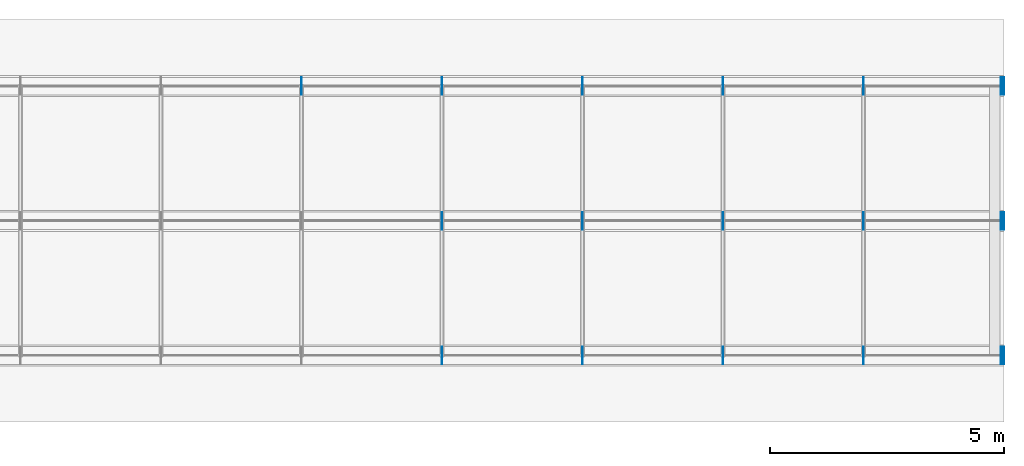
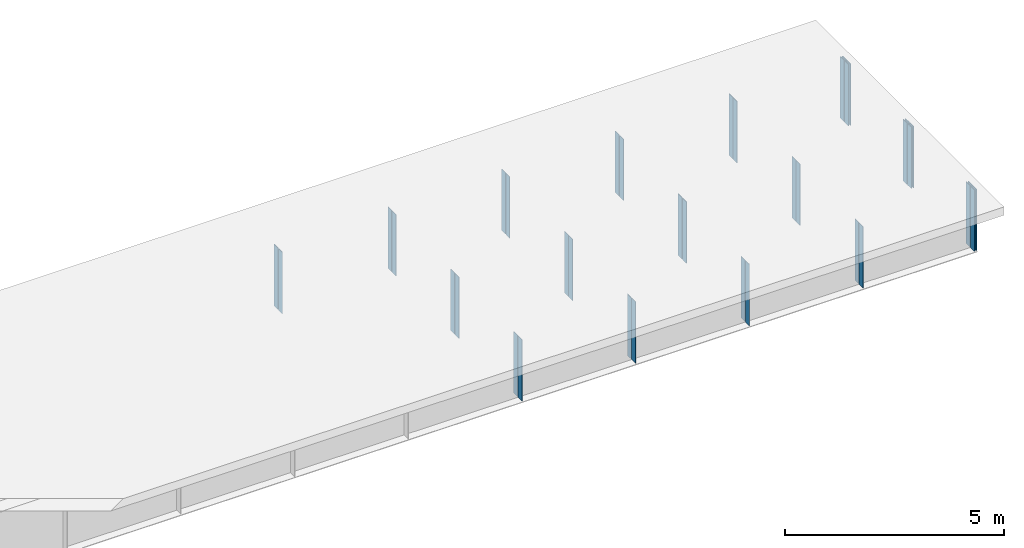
# One storey, part 10 of 10: 38 plates.
"""IFC4 building model written with IfcOpenShell, lengths in metres."""

from ifc_helpers import new_model, si_unit, frame, origin, origin_with_axes, origin_2d_with_axis, place, context, subcontext, project, spatial, rectangle, extrude, element, save


model = new_model("IFC4")

# Units and contexts
model_context = context("Model", 3, precision=1e-05, world=origin())
body_context = subcontext(model_context, "Body", "Model", "MODEL_VIEW")
ifc_project = project(units=[si_unit("LENGTHUNIT", "METRE"), si_unit("AREAUNIT", "SQUARE_METRE"), si_unit("VOLUMEUNIT", "CUBIC_METRE"), si_unit("PLANEANGLEUNIT", "RADIAN")], contexts=[model_context])

# Site, building, storey
site_placement = place(None, origin_with_axes())
site = spatial("IfcSite", under=ifc_project, at=site_placement, Name="Default Site")
building_placement = place(site_placement, origin_with_axes())
building = spatial("IfcBuilding", under=site, at=building_placement, Name="Bridge Structure")
storey_placement = place(building_placement, origin_with_axes())
storey = spatial("IfcBuildingStorey", under=building, at=storey_placement, Name="Superstructure")

# Plates
for number, where, z_axis, x_axis, name in (
    (1, (18.0, -2.77725, -0.8575), (0.0, 0.0, 1.0), (1.0, 0.0, 0.0), "Intermediate Stiffener 1"),
    (2, (18.0, -2.97275, -0.8575), (0.0, 0.0, 1.0), (1.0, 0.0, 0.0), "Intermediate Stiffener 1"),
    (3, (21.0, -2.77725, -0.8575), (0.0, 0.0, 1.0), (1.0, 0.0, 0.0), "Intermediate Stiffener 1"),
    (4, (21.0, -2.97275, -0.8575), (0.0, 0.0, 1.0), (1.0, 0.0, 0.0), "Intermediate Stiffener 1"),
    (5, (24.0, -2.77725, -0.8575), (0.0, 0.0, 1.0), (1.0, 0.0, 0.0), "Intermediate Stiffener 1"),
    (6, (24.0, -2.97275, -0.8575), (0.0, 0.0, 1.0), (1.0, 0.0, 0.0), "Intermediate Stiffener 1"),
    (7, (27.0, -2.77725, -0.8575), (0.0, 0.0, 1.0), (1.0, 0.0, 0.0), "Intermediate Stiffener 1"),
    (8, (27.0, -2.97275, -0.8575), (0.0, 0.0, 1.0), (1.0, 0.0, 0.0), "Intermediate Stiffener 1"),
):
    element("IfcPlate", number, at=place(storey_placement, frame(where, z_axis=z_axis, x_axis=x_axis)), inside=storey, Name=name, context=body_context, shape_type="SweptSolid", body=[
        extrude(rectangle(XDim=0.012, YDim=0.1795, at=origin_2d_with_axis()), origin_with_axes(), (0.0, 0.0, 1.0), 1.715),
    ])
for number, where, z_axis, x_axis, name in (
    (9, (29.990000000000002, -2.77725, -0.8575), (0.0, 0.0, 1.0), (1.0, 0.0, 0.0), "End Stiffener 1"),
    (10, (29.990000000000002, -2.97275, -0.8575), (0.0, 0.0, 1.0), (1.0, 0.0, 0.0), "End Stiffener 1"),
    (11, (29.94, -2.77725, -0.8575), (0.0, 0.0, 1.0), (1.0, 0.0, 0.0), "End Stiffener 1"),
    (12, (29.94, -2.97275, -0.8575), (0.0, 0.0, 1.0), (1.0, 0.0, 0.0), "End Stiffener 1"),
):
    element("IfcPlate", number, at=place(storey_placement, frame(where, z_axis=z_axis, x_axis=x_axis)), inside=storey, Name=name, context=body_context, shape_type="SweptSolid", body=[
        extrude(rectangle(XDim=0.02, YDim=0.1795, at=origin_2d_with_axis()), origin_with_axes(), (0.0, 0.0, 1.0), 1.715),
    ])
for number, where, z_axis, x_axis, name in (
    (13, (18.0, 0.09775, -0.8575), (0.0, 0.0, 1.0), (1.0, 0.0, 0.0), "Intermediate Stiffener 2"),
    (14, (18.0, -0.09775, -0.8575), (0.0, 0.0, 1.0), (1.0, 0.0, 0.0), "Intermediate Stiffener 2"),
    (15, (21.0, 0.09775, -0.8575), (0.0, 0.0, 1.0), (1.0, 0.0, 0.0), "Intermediate Stiffener 2"),
    (16, (21.0, -0.09775, -0.8575), (0.0, 0.0, 1.0), (1.0, 0.0, 0.0), "Intermediate Stiffener 2"),
    (17, (24.0, 0.09775, -0.8575), (0.0, 0.0, 1.0), (1.0, 0.0, 0.0), "Intermediate Stiffener 2"),
    (18, (24.0, -0.09775, -0.8575), (0.0, 0.0, 1.0), (1.0, 0.0, 0.0), "Intermediate Stiffener 2"),
    (19, (27.0, 0.09775, -0.8575), (0.0, 0.0, 1.0), (1.0, 0.0, 0.0), "Intermediate Stiffener 2"),
    (20, (27.0, -0.09775, -0.8575), (0.0, 0.0, 1.0), (1.0, 0.0, 0.0), "Intermediate Stiffener 2"),
):
    element("IfcPlate", number, at=place(storey_placement, frame(where, z_axis=z_axis, x_axis=x_axis)), inside=storey, Name=name, context=body_context, shape_type="SweptSolid", body=[
        extrude(rectangle(XDim=0.012, YDim=0.1795, at=origin_2d_with_axis()), origin_with_axes(), (0.0, 0.0, 1.0), 1.715),
    ])
for number, where, z_axis, x_axis, name in (
    (21, (29.990000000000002, 0.09775, -0.8575), (0.0, 0.0, 1.0), (1.0, 0.0, 0.0), "End Stiffener 2"),
    (22, (29.990000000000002, -0.09775, -0.8575), (0.0, 0.0, 1.0), (1.0, 0.0, 0.0), "End Stiffener 2"),
    (23, (29.94, 0.09775, -0.8575), (0.0, 0.0, 1.0), (1.0, 0.0, 0.0), "End Stiffener 2"),
    (24, (29.94, -0.09775, -0.8575), (0.0, 0.0, 1.0), (1.0, 0.0, 0.0), "End Stiffener 2"),
):
    element("IfcPlate", number, at=place(storey_placement, frame(where, z_axis=z_axis, x_axis=x_axis)), inside=storey, Name=name, context=body_context, shape_type="SweptSolid", body=[
        extrude(rectangle(XDim=0.02, YDim=0.1795, at=origin_2d_with_axis()), origin_with_axes(), (0.0, 0.0, 1.0), 1.715),
    ])
for number, where, z_axis, x_axis, name in (
    (25, (15.0, 2.97275, -0.8575), (0.0, 0.0, 1.0), (1.0, 0.0, 0.0), "Intermediate Stiffener 3"),
    (26, (15.0, 2.77725, -0.8575), (0.0, 0.0, 1.0), (1.0, 0.0, 0.0), "Intermediate Stiffener 3"),
    (27, (18.0, 2.97275, -0.8575), (0.0, 0.0, 1.0), (1.0, 0.0, 0.0), "Intermediate Stiffener 3"),
    (28, (18.0, 2.77725, -0.8575), (0.0, 0.0, 1.0), (1.0, 0.0, 0.0), "Intermediate Stiffener 3"),
    (29, (21.0, 2.97275, -0.8575), (0.0, 0.0, 1.0), (1.0, 0.0, 0.0), "Intermediate Stiffener 3"),
    (30, (21.0, 2.77725, -0.8575), (0.0, 0.0, 1.0), (1.0, 0.0, 0.0), "Intermediate Stiffener 3"),
    (31, (24.0, 2.97275, -0.8575), (0.0, 0.0, 1.0), (1.0, 0.0, 0.0), "Intermediate Stiffener 3"),
    (32, (24.0, 2.77725, -0.8575), (0.0, 0.0, 1.0), (1.0, 0.0, 0.0), "Intermediate Stiffener 3"),
    (33, (27.0, 2.97275, -0.8575), (0.0, 0.0, 1.0), (1.0, 0.0, 0.0), "Intermediate Stiffener 3"),
    (34, (27.0, 2.77725, -0.8575), (0.0, 0.0, 1.0), (1.0, 0.0, 0.0), "Intermediate Stiffener 3"),
):
    element("IfcPlate", number, at=place(storey_placement, frame(where, z_axis=z_axis, x_axis=x_axis)), inside=storey, Name=name, context=body_context, shape_type="SweptSolid", body=[
        extrude(rectangle(XDim=0.012, YDim=0.1795, at=origin_2d_with_axis()), origin_with_axes(), (0.0, 0.0, 1.0), 1.715),
    ])
for number, where, z_axis, x_axis, name in (
    (35, (29.990000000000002, 2.97275, -0.8575), (0.0, 0.0, 1.0), (1.0, 0.0, 0.0), "End Stiffener 3"),
    (36, (29.990000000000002, 2.77725, -0.8575), (0.0, 0.0, 1.0), (1.0, 0.0, 0.0), "End Stiffener 3"),
    (37, (29.94, 2.97275, -0.8575), (0.0, 0.0, 1.0), (1.0, 0.0, 0.0), "End Stiffener 3"),
    (38, (29.94, 2.77725, -0.8575), (0.0, 0.0, 1.0), (1.0, 0.0, 0.0), "End Stiffener 3"),
):
    element("IfcPlate", number, at=place(storey_placement, frame(where, z_axis=z_axis, x_axis=x_axis)), inside=storey, Name=name, context=body_context, shape_type="SweptSolid", body=[
        extrude(rectangle(XDim=0.02, YDim=0.1795, at=origin_2d_with_axis()), origin_with_axes(), (0.0, 0.0, 1.0), 1.715),
    ])

save(model, "model.ifc")
